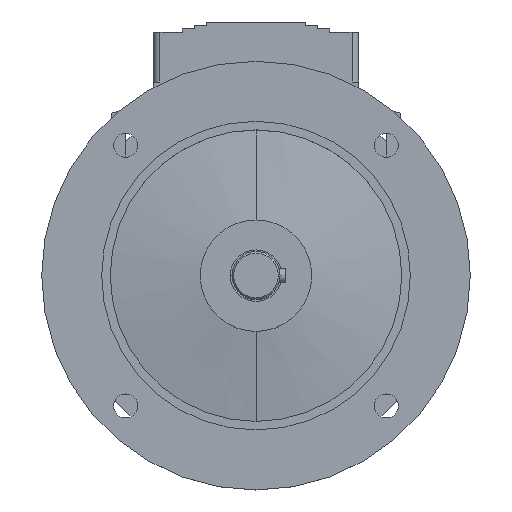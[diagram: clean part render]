
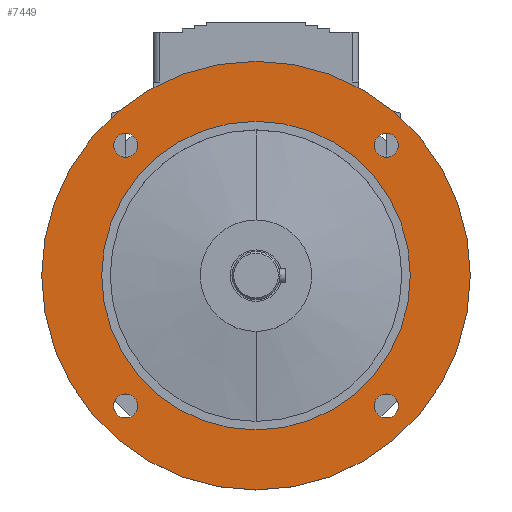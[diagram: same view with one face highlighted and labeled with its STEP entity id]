
A CAD part, top view. The second image highlights one B-rep face of the part: STEP entity #7449.
In plain terms, the highlighted planar face has unit normal (0, 0, 1).
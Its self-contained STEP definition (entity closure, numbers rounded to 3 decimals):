
#2224=CARTESIAN_POINT('',(-76.014,76.014,38.));
#2225=DIRECTION('',(0.,0.,-1.));
#2226=DIRECTION('',(-1.,0.,0.));
#2227=AXIS2_PLACEMENT_3D('',#2224,#2225,#2226);
#2229=CARTESIAN_POINT('',(-76.014,76.014,38.));
#2230=DIRECTION('',(0.,0.,-1.));
#2231=DIRECTION('',(1.,0.,0.));
#2232=AXIS2_PLACEMENT_3D('',#2229,#2230,#2231);
#2234=CARTESIAN_POINT('',(-76.014,-76.014,38.));
#2235=DIRECTION('',(0.,0.,-1.));
#2236=DIRECTION('',(-1.,0.,0.));
#2237=AXIS2_PLACEMENT_3D('',#2234,#2235,#2236);
#2239=CARTESIAN_POINT('',(-76.014,-76.014,38.));
#2240=DIRECTION('',(0.,0.,-1.));
#2241=DIRECTION('',(1.,0.,0.));
#2242=AXIS2_PLACEMENT_3D('',#2239,#2240,#2241);
#2244=CARTESIAN_POINT('',(76.014,-76.014,38.));
#2245=DIRECTION('',(0.,0.,-1.));
#2246=DIRECTION('',(-1.,0.,0.));
#2247=AXIS2_PLACEMENT_3D('',#2244,#2245,#2246);
#2249=CARTESIAN_POINT('',(76.014,-76.014,38.));
#2250=DIRECTION('',(0.,0.,-1.));
#2251=DIRECTION('',(1.,0.,0.));
#2252=AXIS2_PLACEMENT_3D('',#2249,#2250,#2251);
#2254=CARTESIAN_POINT('',(0.,0.,38.));
#2255=DIRECTION('',(0.,0.,1.));
#2256=DIRECTION('',(0.,1.,0.));
#2257=AXIS2_PLACEMENT_3D('',#2254,#2255,#2256);
#2259=CARTESIAN_POINT('',(0.,0.,38.));
#2260=DIRECTION('',(0.,0.,-1.));
#2261=DIRECTION('',(0.,1.,0.));
#2262=AXIS2_PLACEMENT_3D('',#2259,#2260,#2261);
#2264=CARTESIAN_POINT('',(76.014,76.014,38.));
#2265=DIRECTION('',(0.,0.,-1.));
#2266=DIRECTION('',(-1.,0.,0.));
#2267=AXIS2_PLACEMENT_3D('',#2264,#2265,#2266);
#2269=CARTESIAN_POINT('',(76.014,76.014,38.));
#2270=DIRECTION('',(0.,0.,-1.));
#2271=DIRECTION('',(1.,0.,0.));
#2272=AXIS2_PLACEMENT_3D('',#2269,#2270,#2271);
#2294=CARTESIAN_POINT('',(0.,0.,38.));
#2295=DIRECTION('',(0.,0.,-1.));
#2296=DIRECTION('',(0.,1.,0.));
#2297=AXIS2_PLACEMENT_3D('',#2294,#2295,#2296);
#2307=CARTESIAN_POINT('',(0.,0.,38.));
#2308=DIRECTION('',(0.,0.,1.));
#2309=DIRECTION('',(0.,1.,0.));
#2310=AXIS2_PLACEMENT_3D('',#2307,#2308,#2309);
#3467=CARTESIAN_POINT('',(0.,125.,38.));
#3469=VERTEX_POINT('',#3467);
#3470=CARTESIAN_POINT('',(0.,90.,38.));
#3472=VERTEX_POINT('',#3470);
#3475=CARTESIAN_POINT('',(0.,-125.,38.));
#3477=VERTEX_POINT('',#3475);
#3478=CARTESIAN_POINT('',(0.,-90.,38.));
#3480=VERTEX_POINT('',#3478);
#3486=CARTESIAN_POINT('',(69.014,76.014,38.));
#3487=CARTESIAN_POINT('',(83.014,76.014,38.));
#3488=VERTEX_POINT('',#3486);
#3489=VERTEX_POINT('',#3487);
#3494=CARTESIAN_POINT('',(69.014,-76.014,38.));
#3495=CARTESIAN_POINT('',(83.014,-76.014,38.));
#3496=VERTEX_POINT('',#3494);
#3497=VERTEX_POINT('',#3495);
#3502=CARTESIAN_POINT('',(-83.014,-76.014,38.));
#3503=CARTESIAN_POINT('',(-69.014,-76.014,38.));
#3504=VERTEX_POINT('',#3502);
#3505=VERTEX_POINT('',#3503);
#3510=CARTESIAN_POINT('',(-83.014,76.014,38.));
#3511=CARTESIAN_POINT('',(-69.014,76.014,38.));
#3512=VERTEX_POINT('',#3510);
#3513=VERTEX_POINT('',#3511);
#7409=CARTESIAN_POINT('',(0.,0.,38.));
#7410=DIRECTION('',(0.,0.,-1.));
#7411=DIRECTION('',(0.,-1.,0.));
#7412=AXIS2_PLACEMENT_3D('',#7409,#7410,#7411);
#7413=PLANE('',#7412);
#7415=ORIENTED_EDGE('',*,*,#7414,.F.);
#7417=ORIENTED_EDGE('',*,*,#7416,.T.);
#7418=EDGE_LOOP('',(#7415,#7417));
#7419=FACE_OUTER_BOUND('',#7418,.F.);
#7420=ORIENTED_EDGE('',*,*,#7399,.F.);
#7422=ORIENTED_EDGE('',*,*,#7421,.F.);
#7423=EDGE_LOOP('',(#7420,#7422));
#7424=FACE_BOUND('',#7423,.F.);
#7426=ORIENTED_EDGE('',*,*,#7425,.F.);
#7428=ORIENTED_EDGE('',*,*,#7427,.F.);
#7429=EDGE_LOOP('',(#7426,#7428));
#7430=FACE_BOUND('',#7429,.F.);
#7432=ORIENTED_EDGE('',*,*,#7431,.F.);
#7434=ORIENTED_EDGE('',*,*,#7433,.F.);
#7435=EDGE_LOOP('',(#7432,#7434));
#7436=FACE_BOUND('',#7435,.F.);
#7438=ORIENTED_EDGE('',*,*,#7437,.F.);
#7440=ORIENTED_EDGE('',*,*,#7439,.T.);
#7441=EDGE_LOOP('',(#7438,#7440));
#7442=FACE_BOUND('',#7441,.F.);
#7444=ORIENTED_EDGE('',*,*,#7443,.F.);
#7446=ORIENTED_EDGE('',*,*,#7445,.F.);
#7447=EDGE_LOOP('',(#7444,#7446));
#7448=FACE_BOUND('',#7447,.F.);
#7449=ADVANCED_FACE('',(#7419,#7424,#7430,#7436,#7442,#7448),#7413,.F.);
#2228=CIRCLE('',#2227,7.);
#2233=CIRCLE('',#2232,7.);
#2238=CIRCLE('',#2237,7.);
#2243=CIRCLE('',#2242,7.);
#2248=CIRCLE('',#2247,7.);
#2253=CIRCLE('',#2252,7.);
#2258=CIRCLE('',#2257,125.);
#2263=CIRCLE('',#2262,125.);
#2268=CIRCLE('',#2267,7.);
#2273=CIRCLE('',#2272,7.);
#2298=CIRCLE('',#2297,90.);
#2311=CIRCLE('',#2310,90.);
#7399=EDGE_CURVE('',#3512,#3513,#2228,.T.);
#7414=EDGE_CURVE('',#3469,#3477,#2258,.T.);
#7416=EDGE_CURVE('',#3469,#3477,#2263,.T.);
#7421=EDGE_CURVE('',#3513,#3512,#2233,.T.);
#7425=EDGE_CURVE('',#3504,#3505,#2238,.T.);
#7427=EDGE_CURVE('',#3505,#3504,#2243,.T.);
#7431=EDGE_CURVE('',#3496,#3497,#2248,.T.);
#7433=EDGE_CURVE('',#3497,#3496,#2253,.T.);
#7437=EDGE_CURVE('',#3472,#3480,#2298,.T.);
#7439=EDGE_CURVE('',#3472,#3480,#2311,.T.);
#7443=EDGE_CURVE('',#3488,#3489,#2268,.T.);
#7445=EDGE_CURVE('',#3489,#3488,#2273,.T.);
